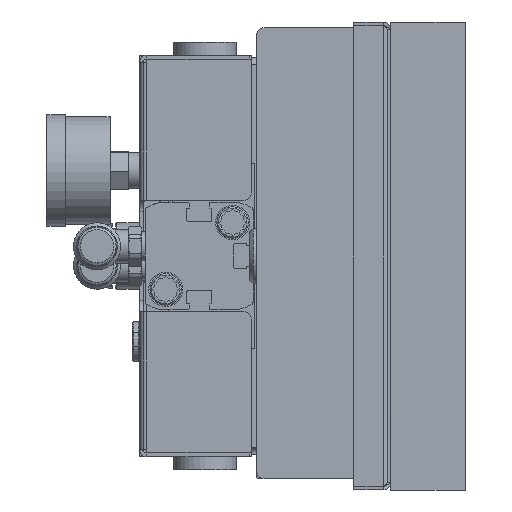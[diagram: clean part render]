
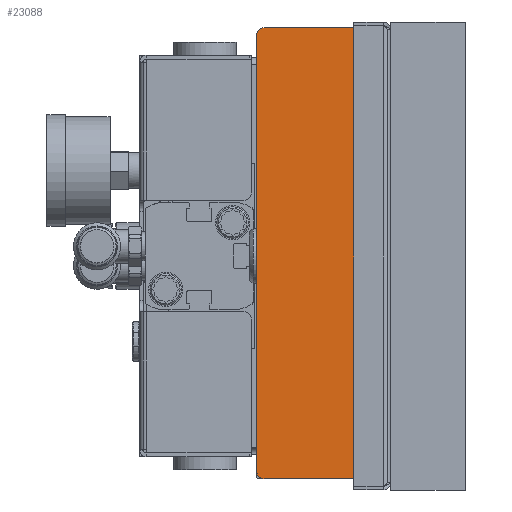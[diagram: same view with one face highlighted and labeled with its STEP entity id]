
A CAD part, left-side view. The second image highlights one B-rep face of the part: STEP entity #23088.
In plain terms, the highlighted planar face has unit normal (-1, 0, 0).
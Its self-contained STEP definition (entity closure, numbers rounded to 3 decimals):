
#286 = CARTESIAN_POINT ( 'NONE',  ( -300., -15., -58. ) ) ;
#1824 = CARTESIAN_POINT ( 'NONE',  ( -300., -15., -60. ) ) ;
#3255 = CIRCLE ( 'NONE', #16245, 2. ) ;
#3621 = EDGE_CURVE ( 'NONE', #15945, #24703, #5636, .T. ) ;
#4479 = CIRCLE ( 'NONE', #33122, 2. ) ;
#5636 = LINE ( 'NONE', #23277, #29899 ) ;
#5711 = AXIS2_PLACEMENT_3D ( 'NONE', #28011, #9078, #31181 ) ;
#6257 = VERTEX_POINT ( 'NONE', #14870 ) ;
#9078 = DIRECTION ( 'NONE',  ( -1., 0., 0. ) ) ;
#9360 = LINE ( 'NONE', #1824, #25166 ) ;
#10310 = ORIENTED_EDGE ( 'NONE', *, *, #36747, .T. ) ;
#11135 = EDGE_CURVE ( 'NONE', #15945, #17536, #40089, .T. ) ;
#11179 = DIRECTION ( 'NONE',  ( 0., 1., 0. ) ) ;
#11454 = CARTESIAN_POINT ( 'NONE',  ( -300., 13., 61.5 ) ) ;
#11634 = EDGE_CURVE ( 'NONE', #38844, #6257, #9360, .T. ) ;
#11902 = DIRECTION ( 'NONE',  ( -1., 0., 0. ) ) ;
#11916 = LINE ( 'NONE', #17742, #27772 ) ;
#13029 = ORIENTED_EDGE ( 'NONE', *, *, #20095, .F. ) ;
#13725 = DIRECTION ( 'NONE',  ( -1., 0., 0. ) ) ;
#14449 = PLANE ( 'NONE',  #36316 ) ;
#14870 = CARTESIAN_POINT ( 'NONE',  ( -300., 13., -60. ) ) ;
#15469 = CARTESIAN_POINT ( 'NONE',  ( -300., -13., 59.5 ) ) ;
#15945 = VERTEX_POINT ( 'NONE', #33118 ) ;
#16122 = CARTESIAN_POINT ( 'NONE',  ( -300., 15., -58. ) ) ;
#16245 = AXIS2_PLACEMENT_3D ( 'NONE', #32711, #13725, #35919 ) ;
#16447 = CIRCLE ( 'NONE', #5711, 2. ) ;
#17302 = ORIENTED_EDGE ( 'NONE', *, *, #3621, .F. ) ;
#17536 = VERTEX_POINT ( 'NONE', #39219 ) ;
#17742 = CARTESIAN_POINT ( 'NONE',  ( -300., -15., 61.5 ) ) ;
#17791 = CARTESIAN_POINT ( 'NONE',  ( -300., 15., 61.5 ) ) ;
#18295 = CARTESIAN_POINT ( 'NONE',  ( -300., 15., 61.5 ) ) ;
#18660 = DIRECTION ( 'NONE',  ( 0., 0., 1. ) ) ;
#19025 = EDGE_CURVE ( 'NONE', #25468, #25421, #16447, .T. ) ;
#19173 = EDGE_LOOP ( 'NONE', ( #36036, #10310, #32054, #30441, #17302, #23772, #13029, #39414 ) ) ;
#20095 = EDGE_CURVE ( 'NONE', #25468, #17536, #11916, .T. ) ;
#20232 = DIRECTION ( 'NONE',  ( 0., 0., -1. ) ) ;
#20968 = DIRECTION ( 'NONE',  ( 0., 0., 1. ) ) ;
#22100 = CARTESIAN_POINT ( 'NONE',  ( -300., -13., -60. ) ) ;
#22953 = AXIS2_PLACEMENT_3D ( 'NONE', #15469, #37650, #18660 ) ;
#23088 = ADVANCED_FACE ( 'NONE', ( #23165 ), #14449, .T. ) ;
#23165 = FACE_OUTER_BOUND ( 'NONE', #19173, .T. ) ;
#23277 = CARTESIAN_POINT ( 'NONE',  ( -300., -15., 61.5 ) ) ;
#23772 = ORIENTED_EDGE ( 'NONE', *, *, #11135, .T. ) ;
#24703 = VERTEX_POINT ( 'NONE', #286 ) ;
#24953 = LINE ( 'NONE', #18295, #40815 ) ;
#25166 = VECTOR ( 'NONE', #11179, 1000. ) ;
#25421 = VERTEX_POINT ( 'NONE', #27114 ) ;
#25468 = VERTEX_POINT ( 'NONE', #11454 ) ;
#25799 = VERTEX_POINT ( 'NONE', #16122 ) ;
#27114 = CARTESIAN_POINT ( 'NONE',  ( -300., 15., 59.5 ) ) ;
#27772 = VECTOR ( 'NONE', #39918, 1000. ) ;
#28011 = CARTESIAN_POINT ( 'NONE',  ( -300., 13., 59.5 ) ) ;
#29899 = VECTOR ( 'NONE', #20232, 1000. ) ;
#30441 = ORIENTED_EDGE ( 'NONE', *, *, #32243, .T. ) ;
#30876 = CARTESIAN_POINT ( 'NONE',  ( -300., 13., -58. ) ) ;
#31181 = DIRECTION ( 'NONE',  ( 0., 0., 1. ) ) ;
#32054 = ORIENTED_EDGE ( 'NONE', *, *, #11634, .F. ) ;
#32243 = EDGE_CURVE ( 'NONE', #38844, #24703, #3255, .T. ) ;
#32597 = EDGE_CURVE ( 'NONE', #25799, #25421, #24953, .T. ) ;
#32711 = CARTESIAN_POINT ( 'NONE',  ( -300., -13., -58. ) ) ;
#33118 = CARTESIAN_POINT ( 'NONE',  ( -300., -15., 59.5 ) ) ;
#33122 = AXIS2_PLACEMENT_3D ( 'NONE', #30876, #11902, #34055 ) ;
#34055 = DIRECTION ( 'NONE',  ( 0., 0., 1. ) ) ;
#34358 = DIRECTION ( 'NONE',  ( 0., 0., 1. ) ) ;
#35919 = DIRECTION ( 'NONE',  ( 0., 0., 1. ) ) ;
#36036 = ORIENTED_EDGE ( 'NONE', *, *, #32597, .F. ) ;
#36316 = AXIS2_PLACEMENT_3D ( 'NONE', #17791, #39971, #20968 ) ;
#36747 = EDGE_CURVE ( 'NONE', #25799, #6257, #4479, .T. ) ;
#37650 = DIRECTION ( 'NONE',  ( -1., 0., 0. ) ) ;
#38844 = VERTEX_POINT ( 'NONE', #22100 ) ;
#39219 = CARTESIAN_POINT ( 'NONE',  ( -300., -13., 61.5 ) ) ;
#39414 = ORIENTED_EDGE ( 'NONE', *, *, #19025, .T. ) ;
#39918 = DIRECTION ( 'NONE',  ( 0., -1., 0. ) ) ;
#39971 = DIRECTION ( 'NONE',  ( -1., 0., 0. ) ) ;
#40089 = CIRCLE ( 'NONE', #22953, 2. ) ;
#40815 = VECTOR ( 'NONE', #34358, 1000. ) ;
